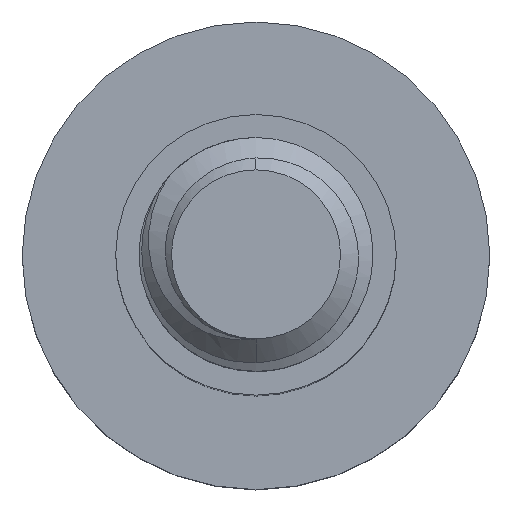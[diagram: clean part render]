
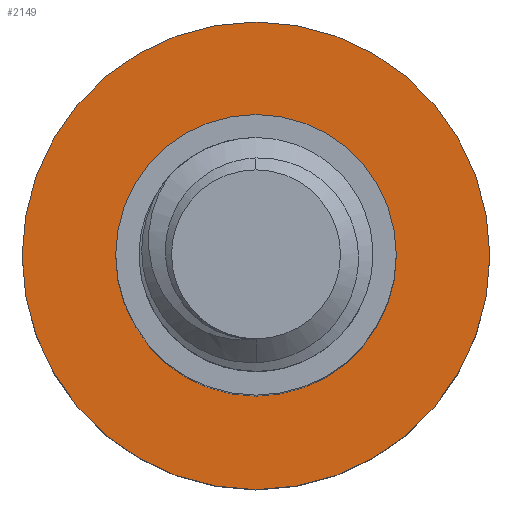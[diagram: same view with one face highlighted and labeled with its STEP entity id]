
A CAD part, top view. The second image highlights one B-rep face of the part: STEP entity #2149.
In plain terms, the highlighted planar face has unit normal (0, 0, 1).
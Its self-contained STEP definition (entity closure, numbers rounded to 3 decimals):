
#131 = ORIENTED_EDGE ( 'NONE', *, *, #1179, .T. ) ;
#152 = VERTEX_POINT ( 'NONE', #1420 ) ;
#158 = DIRECTION ( 'NONE',  ( 0., 0., -1. ) ) ;
#343 = CARTESIAN_POINT ( 'NONE',  ( 0., 0., -12. ) ) ;
#359 = CARTESIAN_POINT ( 'NONE',  ( 0., 0., -12. ) ) ;
#368 = EDGE_CURVE ( 'NONE', #976, #152, #1204, .T. ) ;
#377 = CARTESIAN_POINT ( 'NONE',  ( 0., 0., -12. ) ) ;
#542 = AXIS2_PLACEMENT_3D ( 'NONE', #377, #1120, #800 ) ;
#583 = VERTEX_POINT ( 'NONE', #1827 ) ;
#648 = VERTEX_POINT ( 'NONE', #2342 ) ;
#661 = DIRECTION ( 'NONE',  ( 0., 0., -1. ) ) ;
#701 = DIRECTION ( 'NONE',  ( -1., 0., 0. ) ) ;
#706 = FACE_OUTER_BOUND ( 'NONE', #1911, .T. ) ;
#800 = DIRECTION ( 'NONE',  ( -1., 0., 0. ) ) ;
#820 = CIRCLE ( 'NONE', #1909, 3. ) ;
#919 = DIRECTION ( 'NONE',  ( 0., 0., -1. ) ) ;
#976 = VERTEX_POINT ( 'NONE', #2285 ) ;
#982 = AXIS2_PLACEMENT_3D ( 'NONE', #359, #919, #2382 ) ;
#1086 = DIRECTION ( 'NONE',  ( 0., 0., -1. ) ) ;
#1120 = DIRECTION ( 'NONE',  ( 0., 0., -1. ) ) ;
#1151 = EDGE_LOOP ( 'NONE', ( #131, #1976 ) ) ;
#1179 = EDGE_CURVE ( 'NONE', #152, #976, #820, .T. ) ;
#1204 = CIRCLE ( 'NONE', #542, 3. ) ;
#1208 = CIRCLE ( 'NONE', #982, 5. ) ;
#1327 = AXIS2_PLACEMENT_3D ( 'NONE', #1582, #661, #1406 ) ;
#1364 = CIRCLE ( 'NONE', #1327, 5. ) ;
#1406 = DIRECTION ( 'NONE',  ( -1., 0., 0. ) ) ;
#1420 = CARTESIAN_POINT ( 'NONE',  ( -3., 0., -12. ) ) ;
#1430 = CARTESIAN_POINT ( 'NONE',  ( 0., 0., -12. ) ) ;
#1582 = CARTESIAN_POINT ( 'NONE',  ( 0., 0., -12. ) ) ;
#1604 = EDGE_CURVE ( 'NONE', #583, #648, #1364, .T. ) ;
#1727 = ORIENTED_EDGE ( 'NONE', *, *, #2082, .F. ) ;
#1827 = CARTESIAN_POINT ( 'NONE',  ( -5., 0., -12. ) ) ;
#1832 = DIRECTION ( 'NONE',  ( -1., 0., 0. ) ) ;
#1891 = ORIENTED_EDGE ( 'NONE', *, *, #1604, .F. ) ;
#1909 = AXIS2_PLACEMENT_3D ( 'NONE', #1430, #158, #701 ) ;
#1911 = EDGE_LOOP ( 'NONE', ( #1727, #1891 ) ) ;
#1976 = ORIENTED_EDGE ( 'NONE', *, *, #368, .T. ) ;
#2013 = PLANE ( 'NONE',  #2183 ) ;
#2082 = EDGE_CURVE ( 'NONE', #648, #583, #1208, .T. ) ;
#2149 = ADVANCED_FACE ( 'NONE', ( #2370, #706 ), #2013, .F. ) ;
#2183 = AXIS2_PLACEMENT_3D ( 'NONE', #343, #1086, #1832 ) ;
#2285 = CARTESIAN_POINT ( 'NONE',  ( 3., 0., -12. ) ) ;
#2342 = CARTESIAN_POINT ( 'NONE',  ( 5., 0., -12. ) ) ;
#2370 = FACE_BOUND ( 'NONE', #1151, .T. ) ;
#2382 = DIRECTION ( 'NONE',  ( -1., 0., 0. ) ) ;
